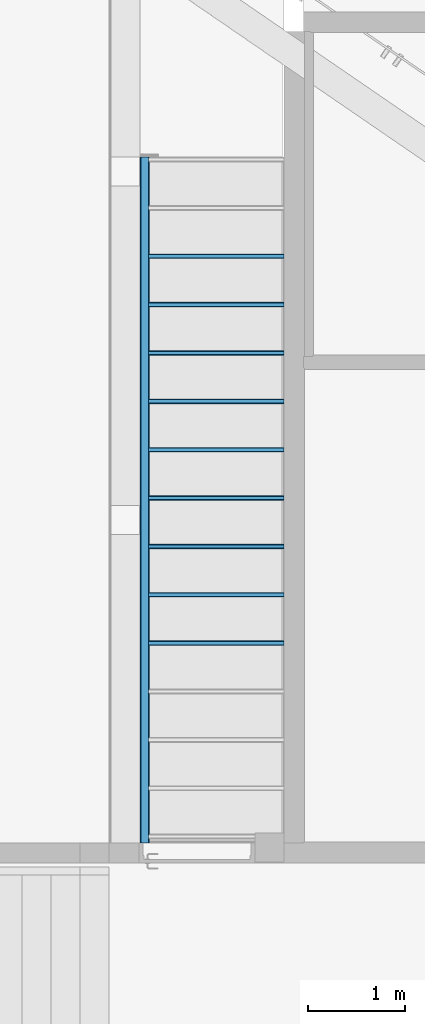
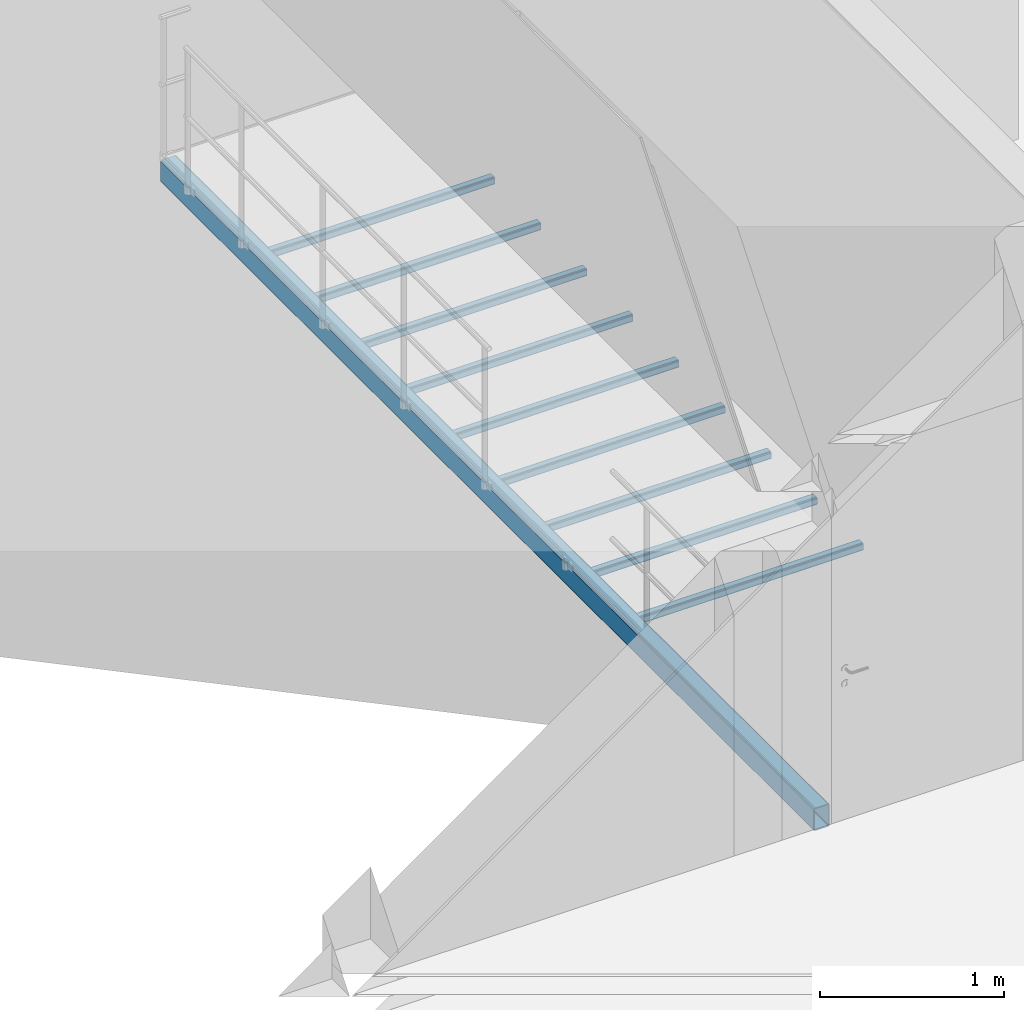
# One storey, part 82 of 246: 10 beams.
"""IFC2X3 building model written with IfcOpenShell, lengths in millimetres."""

from ifc_helpers import new_model, entity, si_unit, converted_unit, derived_unit, money_unit, direction, frame, origin_with_axes, place, context, subcontext, project, spatial, faceted_brep, material, type_object, element, save


model = new_model("IFC2X3")

# Units and contexts
model_context = context("Model", 3, precision=0.01, world=origin_with_axes(), true_north=direction((0.0, 1.0)))
body_context = subcontext(model_context, "Body", "Model", "MODEL_VIEW")
ifc_project = project(units=[si_unit("LENGTHUNIT", "METRE", prefix="MILLI"), si_unit("AREAUNIT", "SQUARE_METRE"), si_unit("VOLUMEUNIT", "CUBIC_METRE"), converted_unit("PLANEANGLEUNIT", "DEGREE", entity("IfcPlaneAngleMeasure", 0.0174532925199), si_unit("PLANEANGLEUNIT", "RADIAN"), dimensions=[0, 0, 0, 0, 0, 0, 0]), si_unit("SOLIDANGLEUNIT", "STERADIAN"), money_unit("EUR"), converted_unit("TIMEUNIT", "Year", entity("IfcTimeMeasure", 31556926.0), si_unit("TIMEUNIT", "SECOND"), dimensions=[0, 0, 1, 0, 0, 0, 0]), si_unit("MASSUNIT", "GRAM", prefix="KILO"), si_unit("THERMODYNAMICTEMPERATUREUNIT", "DEGREE_CELSIUS"), si_unit("LUMINOUSINTENSITYUNIT", "LUMEN"), si_unit("ENERGYUNIT", "JOULE", prefix="MEGA"), derived_unit("THERMALCONDUCTANCEUNIT", [(si_unit("POWERUNIT", "WATT"), 1), (si_unit("LENGTHUNIT", "METRE"), -1), (si_unit("THERMODYNAMICTEMPERATUREUNIT", "KELVIN"), -1)]), derived_unit("SPECIFICHEATCAPACITYUNIT", [(si_unit("ENERGYUNIT", "JOULE"), 1), (si_unit("MASSUNIT", "GRAM", prefix="KILO"), -1), (si_unit("THERMODYNAMICTEMPERATUREUNIT", "KELVIN"), -1)]), derived_unit("MASSDENSITYUNIT", [(si_unit("MASSUNIT", "GRAM", prefix="KILO"), 1), (si_unit("VOLUMEUNIT", "CUBIC_METRE"), -1)])], contexts=[model_context])

# Site, building, storey
site_placement = place(None, origin_with_axes())
site = spatial("IfcSite", under=ifc_project, at=site_placement, Name="L.Koidula tn 11b", CompositionType="ELEMENT")
building_placement = place(site_placement, origin_with_axes())
building = spatial("IfcBuilding", under=site, at=building_placement, Name="Rakvere Riigigümnaasium", CompositionType="ELEMENT")
storey_placement = place(building_placement, origin_with_axes())
storey = spatial("IfcBuildingStorey", under=building, at=storey_placement, Name="1.korrus 0,00", CompositionType="ELEMENT", Elevation=0.0)

# Beams
ifc_material = material(Name="teras_must")
beam_type_1 = type_object("IfcBeamType", Name="SHS50x50x4-AR 50 x 50", PredefinedType="BEAM")
beam_1_placement = place(storey_placement, frame((64460.0209314, 23375.4556024, -54.9862868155), z_axis=(0.0, 0.0, 1.0), x_axis=(0.0, -1.0, 0.0)))
element("IfcBeam", 1, at=beam_1_placement, inside=storey, type_object=beam_type_1, material=ifc_material, Name="TALA", ObjectType="BEAM", context=body_context, shape_type="Brep", body=[
    faceted_brep([(-22.8994949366, 47.0710678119, 22.0710678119), (22.8994949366, 47.0710678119, 22.0710678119), (22.6568542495, 45.6568542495, 22.6568542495), (17.0, 40.0, 25.0), (-17.0, 40.0, 25.0), (-22.6568542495, 45.6568542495, 22.6568542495), (25.0, 50.0, 15.0), (25.0, 49.1715728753, 17.0), (-25.0, 49.1715728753, 17.0), (-25.0, 50.0, 15.0), (-21.0, 50.0, 15.0), (-21.0, 49.1715728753, 17.0), (-19.8284271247, 48.0, 19.8284271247), (-17.0, 47.5147186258, 21.0), (17.0, 47.5147186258, 21.0), (19.8284271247, 48.0, 19.8284271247), (21.0, 49.1715728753, 17.0), (21.0, 50.0, 15.0), (25.0, 1439.97714151, 17.0), (22.6568542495, 1439.97714151, 22.6568542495), (17.0, 1439.97714151, 25.0), (-17.0, 1439.97714151, 25.0), (-22.6568542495, 1439.97714151, 22.6568542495), (-25.0, 1439.97714151, 17.0), (25.0, 50.0, -17.0), (25.0, 1439.97714151, -17.0), (-25.0, 1439.97714151, -17.0), (-25.0, 50.0, -17.0), (17.0, 50.0, -25.0), (22.6568542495, 50.0, -22.6568542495), (21.0, 50.0, -17.0), (19.8284271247, 50.0, -19.8284271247), (17.0, 50.0, -21.0), (-17.0, 50.0, -21.0), (-19.8284271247, 50.0, -19.8284271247), (-21.0, 50.0, -17.0), (-22.6568542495, 50.0, -22.6568542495), (-17.0, 50.0, -25.0), (-21.0, 1439.97714151, 17.0), (-21.0, 1439.97714151, -17.0), (-19.8284271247, 1439.97714151, 19.8284271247), (-17.0, 1439.97714151, 21.0), (17.0, 1439.97714151, 21.0), (19.8284271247, 1439.97714151, 19.8284271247), (21.0, 1439.97714151, 17.0), (21.0, 1439.97714151, -17.0), (22.6568542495, 1439.97714151, -22.6568542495), (17.0, 1439.97714151, -25.0), (-17.0, 1439.97714151, -25.0), (-22.6568542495, 1439.97714151, -22.6568542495), (17.0, 1439.97714151, -21.0), (19.8284271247, 1439.97714151, -19.8284271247), (-19.8284271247, 1439.97714151, -19.8284271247), (-17.0, 1439.97714151, -21.0)], [[[0, 1, 2, 3, 4, 5]], [[6, 7, 1, 0, 8, 9, 10, 11, 12, 13, 14, 15, 16, 17]], [[2, 1, 7, 18, 19]], [[20, 3, 2, 19]], [[21, 4, 3, 20]], [[22, 5, 4, 21]], [[23, 8, 0, 5, 22]], [[6, 24, 25, 18, 7]], [[26, 27, 9, 8, 23]], [[28, 29, 24, 6, 17, 30, 31, 32, 33, 34, 35, 10, 9, 27, 36, 37]], [[38, 11, 10, 35, 39]], [[40, 12, 11, 38]], [[41, 13, 12, 40]], [[42, 14, 13, 41]], [[43, 15, 14, 42]], [[44, 16, 15, 43]], [[45, 30, 17, 16, 44]], [[18, 25, 46, 47, 48, 49, 26, 23, 22, 21, 20, 19], [50, 51, 45, 44, 43, 42, 41, 40, 38, 39, 52, 53]], [[25, 24, 29, 46]], [[49, 36, 27, 26]], [[46, 29, 28, 47]], [[51, 31, 30, 45]], [[50, 32, 31, 51]], [[53, 33, 32, 50]], [[52, 34, 33, 53]], [[39, 35, 34, 52]], [[48, 37, 36, 49]], [[47, 28, 37, 48]]]),
])
beam_2_placement = place(storey_placement, frame((64460.0209314, 21875.4556024, -54.9862868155), z_axis=(0.0, 0.0, 1.0), x_axis=(0.0, -1.0, 0.0)))
element("IfcBeam", 2, at=beam_2_placement, inside=storey, type_object=beam_type_1, material=ifc_material, Name="TALA", ObjectType="BEAM", context=body_context, shape_type="Brep", body=[
    faceted_brep([(-22.8994949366, 47.0710678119, 22.0710678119), (22.8994949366, 47.0710678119, 22.0710678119), (22.6568542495, 45.6568542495, 22.6568542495), (17.0, 40.0, 25.0), (-17.0, 40.0, 25.0), (-22.6568542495, 45.6568542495, 22.6568542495), (25.0, 50.0, 15.0), (25.0, 49.1715728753, 17.0), (-25.0, 49.1715728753, 17.0), (-25.0, 50.0, 15.0), (-21.0, 50.0, 15.0), (-21.0, 49.1715728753, 17.0), (-19.8284271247, 48.0, 19.8284271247), (-17.0, 47.5147186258, 21.0), (17.0, 47.5147186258, 21.0), (19.8284271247, 48.0, 19.8284271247), (21.0, 49.1715728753, 17.0), (21.0, 50.0, 15.0), (25.0, 1439.97714151, 17.0), (22.6568542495, 1439.97714151, 22.6568542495), (17.0, 1439.97714151, 25.0), (-17.0, 1439.97714151, 25.0), (-22.6568542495, 1439.97714151, 22.6568542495), (-25.0, 1439.97714151, 17.0), (25.0, 50.0, -17.0), (25.0, 1439.97714151, -17.0), (-25.0, 1439.97714151, -17.0), (-25.0, 50.0, -17.0), (17.0, 50.0, -25.0), (22.6568542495, 50.0, -22.6568542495), (21.0, 50.0, -17.0), (19.8284271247, 50.0, -19.8284271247), (17.0, 50.0, -21.0), (-17.0, 50.0, -21.0), (-19.8284271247, 50.0, -19.8284271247), (-21.0, 50.0, -17.0), (-22.6568542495, 50.0, -22.6568542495), (-17.0, 50.0, -25.0), (-21.0, 1439.97714151, 17.0), (-21.0, 1439.97714151, -17.0), (-19.8284271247, 1439.97714151, 19.8284271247), (-17.0, 1439.97714151, 21.0), (17.0, 1439.97714151, 21.0), (19.8284271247, 1439.97714151, 19.8284271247), (21.0, 1439.97714151, 17.0), (21.0, 1439.97714151, -17.0), (22.6568542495, 1439.97714151, -22.6568542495), (17.0, 1439.97714151, -25.0), (-17.0, 1439.97714151, -25.0), (-22.6568542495, 1439.97714151, -22.6568542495), (17.0, 1439.97714151, -21.0), (19.8284271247, 1439.97714151, -19.8284271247), (-19.8284271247, 1439.97714151, -19.8284271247), (-17.0, 1439.97714151, -21.0)], [[[0, 1, 2, 3, 4, 5]], [[6, 7, 1, 0, 8, 9, 10, 11, 12, 13, 14, 15, 16, 17]], [[2, 1, 7, 18, 19]], [[20, 3, 2, 19]], [[21, 4, 3, 20]], [[22, 5, 4, 21]], [[23, 8, 0, 5, 22]], [[6, 24, 25, 18, 7]], [[26, 27, 9, 8, 23]], [[28, 29, 24, 6, 17, 30, 31, 32, 33, 34, 35, 10, 9, 27, 36, 37]], [[38, 11, 10, 35, 39]], [[40, 12, 11, 38]], [[41, 13, 12, 40]], [[42, 14, 13, 41]], [[43, 15, 14, 42]], [[44, 16, 15, 43]], [[30, 17, 16, 44, 45]], [[18, 25, 46, 47, 48, 49, 26, 23, 22, 21, 20, 19], [50, 51, 45, 44, 43, 42, 41, 40, 38, 39, 52, 53]], [[25, 24, 29, 46]], [[49, 36, 27, 26]], [[46, 29, 28, 47]], [[51, 31, 30, 45]], [[50, 32, 31, 51]], [[53, 33, 32, 50]], [[52, 34, 33, 53]], [[39, 35, 34, 52]], [[48, 37, 36, 49]], [[47, 28, 37, 48]]]),
])
beam_3_placement = place(storey_placement, frame((64460.0209314, 22375.4556024, -54.9862868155), z_axis=(0.0, 0.0, 1.0), x_axis=(0.0, -1.0, 0.0)))
element("IfcBeam", 3, at=beam_3_placement, inside=storey, type_object=beam_type_1, material=ifc_material, Name="TALA", ObjectType="BEAM", context=body_context, shape_type="Brep", body=[
    faceted_brep([(-22.8994949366, 47.0710678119, 22.0710678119), (22.8994949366, 47.0710678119, 22.0710678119), (22.6568542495, 45.6568542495, 22.6568542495), (17.0, 40.0, 25.0), (-17.0, 40.0, 25.0), (-22.6568542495, 45.6568542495, 22.6568542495), (25.0, 50.0, 15.0), (25.0, 49.1715728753, 17.0), (-25.0, 49.1715728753, 17.0), (-25.0, 50.0, 15.0), (-21.0, 50.0, 15.0), (-21.0, 49.1715728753, 17.0), (-19.8284271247, 48.0, 19.8284271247), (-17.0, 47.5147186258, 21.0), (17.0, 47.5147186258, 21.0), (19.8284271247, 48.0, 19.8284271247), (21.0, 49.1715728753, 17.0), (21.0, 50.0, 15.0), (25.0, 1439.97714151, 17.0), (22.6568542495, 1439.97714151, 22.6568542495), (17.0, 1439.97714151, 25.0), (-17.0, 1439.97714151, 25.0), (-22.6568542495, 1439.97714151, 22.6568542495), (-25.0, 1439.97714151, 17.0), (25.0, 50.0, -17.0), (25.0, 1439.97714151, -17.0), (-25.0, 1439.97714151, -17.0), (-25.0, 50.0, -17.0), (17.0, 50.0, -25.0), (22.6568542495, 50.0, -22.6568542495), (21.0, 50.0, -17.0), (19.8284271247, 50.0, -19.8284271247), (17.0, 50.0, -21.0), (-17.0, 50.0, -21.0), (-19.8284271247, 50.0, -19.8284271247), (-21.0, 50.0, -17.0), (-22.6568542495, 50.0, -22.6568542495), (-17.0, 50.0, -25.0), (-21.0, 1439.97714151, 17.0), (-21.0, 1439.97714151, -17.0), (-19.8284271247, 1439.97714151, 19.8284271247), (-17.0, 1439.97714151, 21.0), (17.0, 1439.97714151, 21.0), (19.8284271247, 1439.97714151, 19.8284271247), (21.0, 1439.97714151, 17.0), (21.0, 1439.97714151, -17.0), (22.6568542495, 1439.97714151, -22.6568542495), (17.0, 1439.97714151, -25.0), (-17.0, 1439.97714151, -25.0), (-22.6568542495, 1439.97714151, -22.6568542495), (17.0, 1439.97714151, -21.0), (19.8284271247, 1439.97714151, -19.8284271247), (-19.8284271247, 1439.97714151, -19.8284271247), (-17.0, 1439.97714151, -21.0)], [[[0, 1, 2, 3, 4, 5]], [[6, 7, 1, 0, 8, 9, 10, 11, 12, 13, 14, 15, 16, 17]], [[2, 1, 7, 18, 19]], [[20, 3, 2, 19]], [[21, 4, 3, 20]], [[22, 5, 4, 21]], [[23, 8, 0, 5, 22]], [[6, 24, 25, 18, 7]], [[26, 27, 9, 8, 23]], [[28, 29, 24, 6, 17, 30, 31, 32, 33, 34, 35, 10, 9, 27, 36, 37]], [[38, 11, 10, 35, 39]], [[40, 12, 11, 38]], [[41, 13, 12, 40]], [[42, 14, 13, 41]], [[43, 15, 14, 42]], [[44, 16, 15, 43]], [[30, 17, 16, 44, 45]], [[18, 25, 46, 47, 48, 49, 26, 23, 22, 21, 20, 19], [50, 51, 45, 44, 43, 42, 41, 40, 38, 39, 52, 53]], [[25, 24, 29, 46]], [[49, 36, 27, 26]], [[46, 29, 28, 47]], [[51, 31, 30, 45]], [[50, 32, 31, 51]], [[53, 33, 32, 50]], [[52, 34, 33, 53]], [[39, 35, 34, 52]], [[48, 37, 36, 49]], [[47, 28, 37, 48]]]),
])
beam_4_placement = place(storey_placement, frame((64460.0209314, 22875.4556024, -54.9862868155), z_axis=(0.0, 0.0, 1.0), x_axis=(0.0, -1.0, 0.0)))
element("IfcBeam", 4, at=beam_4_placement, inside=storey, type_object=beam_type_1, material=ifc_material, Name="TALA", ObjectType="BEAM", context=body_context, shape_type="Brep", body=[
    faceted_brep([(-22.8994949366, 47.0710678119, 22.0710678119), (22.8994949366, 47.0710678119, 22.0710678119), (22.6568542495, 45.6568542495, 22.6568542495), (17.0, 40.0, 25.0), (-17.0, 40.0, 25.0), (-22.6568542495, 45.6568542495, 22.6568542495), (25.0, 50.0, 15.0), (25.0, 49.1715728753, 17.0), (-25.0, 49.1715728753, 17.0), (-25.0, 50.0, 15.0), (-21.0, 50.0, 15.0), (-21.0, 49.1715728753, 17.0), (-19.8284271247, 48.0, 19.8284271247), (-17.0, 47.5147186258, 21.0), (17.0, 47.5147186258, 21.0), (19.8284271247, 48.0, 19.8284271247), (21.0, 49.1715728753, 17.0), (21.0, 50.0, 15.0), (25.0, 1439.97714151, 17.0), (22.6568542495, 1439.97714151, 22.6568542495), (17.0, 1439.97714151, 25.0), (-17.0, 1439.97714151, 25.0), (-22.6568542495, 1439.97714151, 22.6568542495), (-25.0, 1439.97714151, 17.0), (25.0, 50.0, -17.0), (25.0, 1439.97714151, -17.0), (-25.0, 1439.97714151, -17.0), (-25.0, 50.0, -17.0), (17.0, 50.0, -25.0), (22.6568542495, 50.0, -22.6568542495), (21.0, 50.0, -17.0), (19.8284271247, 50.0, -19.8284271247), (17.0, 50.0, -21.0), (-17.0, 50.0, -21.0), (-19.8284271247, 50.0, -19.8284271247), (-21.0, 50.0, -17.0), (-22.6568542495, 50.0, -22.6568542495), (-17.0, 50.0, -25.0), (-21.0, 1439.97714151, 17.0), (-21.0, 1439.97714151, -17.0), (-19.8284271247, 1439.97714151, 19.8284271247), (-17.0, 1439.97714151, 21.0), (17.0, 1439.97714151, 21.0), (19.8284271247, 1439.97714151, 19.8284271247), (21.0, 1439.97714151, 17.0), (21.0, 1439.97714151, -17.0), (22.6568542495, 1439.97714151, -22.6568542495), (17.0, 1439.97714151, -25.0), (-17.0, 1439.97714151, -25.0), (-22.6568542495, 1439.97714151, -22.6568542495), (17.0, 1439.97714151, -21.0), (19.8284271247, 1439.97714151, -19.8284271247), (-19.8284271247, 1439.97714151, -19.8284271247), (-17.0, 1439.97714151, -21.0)], [[[0, 1, 2, 3, 4, 5]], [[6, 7, 1, 0, 8, 9, 10, 11, 12, 13, 14, 15, 16, 17]], [[2, 1, 7, 18, 19]], [[20, 3, 2, 19]], [[21, 4, 3, 20]], [[22, 5, 4, 21]], [[23, 8, 0, 5, 22]], [[6, 24, 25, 18, 7]], [[26, 27, 9, 8, 23]], [[28, 29, 24, 6, 17, 30, 31, 32, 33, 34, 35, 10, 9, 27, 36, 37]], [[38, 11, 10, 35, 39]], [[40, 12, 11, 38]], [[41, 13, 12, 40]], [[42, 14, 13, 41]], [[43, 15, 14, 42]], [[44, 16, 15, 43]], [[45, 30, 17, 16, 44]], [[18, 25, 46, 47, 48, 49, 26, 23, 22, 21, 20, 19], [50, 51, 45, 44, 43, 42, 41, 40, 38, 39, 52, 53]], [[25, 24, 29, 46]], [[49, 36, 27, 26]], [[46, 29, 28, 47]], [[51, 31, 30, 45]], [[50, 32, 31, 51]], [[53, 33, 32, 50]], [[52, 34, 33, 53]], [[39, 35, 34, 52]], [[48, 37, 36, 49]], [[47, 28, 37, 48]]]),
])
beam_5_placement = place(storey_placement, frame((64460.0209314, 21375.4556024, -54.9862868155), z_axis=(0.0, 0.0, 1.0), x_axis=(0.0, -1.0, 0.0)))
element("IfcBeam", 5, at=beam_5_placement, inside=storey, type_object=beam_type_1, material=ifc_material, Name="TALA", ObjectType="BEAM", context=body_context, shape_type="Brep", body=[
    faceted_brep([(-22.8994949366, 47.0710678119, 22.0710678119), (22.8994949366, 47.0710678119, 22.0710678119), (22.6568542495, 45.6568542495, 22.6568542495), (17.0, 40.0, 25.0), (-17.0, 40.0, 25.0), (-22.6568542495, 45.6568542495, 22.6568542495), (25.0, 50.0, 15.0), (25.0, 49.1715728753, 17.0), (-25.0, 49.1715728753, 17.0), (-25.0, 50.0, 15.0), (-21.0, 50.0, 15.0), (-21.0, 49.1715728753, 17.0), (-19.8284271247, 48.0, 19.8284271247), (-17.0, 47.5147186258, 21.0), (17.0, 47.5147186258, 21.0), (19.8284271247, 48.0, 19.8284271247), (21.0, 49.1715728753, 17.0), (21.0, 50.0, 15.0), (25.0, 1439.97714151, 17.0), (22.6568542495, 1439.97714151, 22.6568542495), (17.0, 1439.97714151, 25.0), (-17.0, 1439.97714151, 25.0), (-22.6568542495, 1439.97714151, 22.6568542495), (-25.0, 1439.97714151, 17.0), (25.0, 50.0, -17.0), (25.0, 1439.97714151, -17.0), (-25.0, 1439.97714151, -17.0), (-25.0, 50.0, -17.0), (17.0, 50.0, -25.0), (22.6568542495, 50.0, -22.6568542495), (21.0, 50.0, -17.0), (19.8284271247, 50.0, -19.8284271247), (17.0, 50.0, -21.0), (-17.0, 50.0, -21.0), (-19.8284271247, 50.0, -19.8284271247), (-21.0, 50.0, -17.0), (-22.6568542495, 50.0, -22.6568542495), (-17.0, 50.0, -25.0), (-21.0, 1439.97714151, 17.0), (-21.0, 1439.97714151, -17.0), (-19.8284271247, 1439.97714151, 19.8284271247), (-17.0, 1439.97714151, 21.0), (17.0, 1439.97714151, 21.0), (19.8284271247, 1439.97714151, 19.8284271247), (21.0, 1439.97714151, 17.0), (21.0, 1439.97714151, -17.0), (22.6568542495, 1439.97714151, -22.6568542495), (17.0, 1439.97714151, -25.0), (-17.0, 1439.97714151, -25.0), (-22.6568542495, 1439.97714151, -22.6568542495), (17.0, 1439.97714151, -21.0), (19.8284271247, 1439.97714151, -19.8284271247), (-19.8284271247, 1439.97714151, -19.8284271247), (-17.0, 1439.97714151, -21.0)], [[[0, 1, 2, 3, 4, 5]], [[6, 7, 1, 0, 8, 9, 10, 11, 12, 13, 14, 15, 16, 17]], [[2, 1, 7, 18, 19]], [[20, 3, 2, 19]], [[21, 4, 3, 20]], [[22, 5, 4, 21]], [[23, 8, 0, 5, 22]], [[6, 24, 25, 18, 7]], [[26, 27, 9, 8, 23]], [[28, 29, 24, 6, 17, 30, 31, 32, 33, 34, 35, 10, 9, 27, 36, 37]], [[38, 11, 10, 35, 39]], [[40, 12, 11, 38]], [[41, 13, 12, 40]], [[42, 14, 13, 41]], [[43, 15, 14, 42]], [[44, 16, 15, 43]], [[45, 30, 17, 16, 44]], [[18, 25, 46, 47, 48, 49, 26, 23, 22, 21, 20, 19], [50, 51, 45, 44, 43, 42, 41, 40, 38, 39, 52, 53]], [[25, 24, 29, 46]], [[49, 36, 27, 26]], [[46, 29, 28, 47]], [[51, 31, 30, 45]], [[50, 32, 31, 51]], [[53, 33, 32, 50]], [[52, 34, 33, 53]], [[39, 35, 34, 52]], [[48, 37, 36, 49]], [[47, 28, 37, 48]]]),
])
beam_6_placement = place(storey_placement, frame((64460.0209314, 19375.4556024, -54.9862868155), z_axis=(0.0, 0.0, 1.0), x_axis=(0.0, -1.0, 0.0)))
element("IfcBeam", 6, at=beam_6_placement, inside=storey, type_object=beam_type_1, material=ifc_material, Name="TALA", ObjectType="BEAM", context=body_context, shape_type="Brep", body=[
    faceted_brep([(-22.8994949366, 47.0710678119, 22.0710678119), (22.8994949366, 47.0710678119, 22.0710678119), (22.6568542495, 45.6568542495, 22.6568542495), (17.0, 40.0, 25.0), (-17.0, 40.0, 25.0), (-22.6568542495, 45.6568542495, 22.6568542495), (25.0, 50.0, 15.0), (25.0, 49.1715728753, 17.0), (-25.0, 49.1715728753, 17.0), (-25.0, 50.0, 15.0), (-21.0, 50.0, 15.0), (-21.0, 49.1715728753, 17.0), (-19.8284271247, 48.0, 19.8284271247), (-17.0, 47.5147186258, 21.0), (17.0, 47.5147186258, 21.0), (19.8284271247, 48.0, 19.8284271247), (21.0, 49.1715728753, 17.0), (21.0, 50.0, 15.0), (25.0, 1439.97714151, 17.0), (22.6568542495, 1439.97714151, 22.6568542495), (17.0, 1439.97714151, 25.0), (-17.0, 1439.97714151, 25.0), (-22.6568542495, 1439.97714151, 22.6568542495), (-25.0, 1439.97714151, 17.0), (25.0, 50.0, -17.0), (25.0, 1439.97714151, -17.0), (-25.0, 50.0, -17.0), (-25.0, 1439.97714151, -17.0), (17.0, 50.0, -25.0), (22.6568542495, 50.0, -22.6568542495), (21.0, 50.0, -17.0), (19.8284271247, 50.0, -19.8284271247), (17.0, 50.0, -21.0), (-17.0, 50.0, -21.0), (-19.8284271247, 50.0, -19.8284271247), (-21.0, 50.0, -17.0), (-22.6568542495, 50.0, -22.6568542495), (-17.0, 50.0, -25.0), (-21.0, 1439.97714151, -17.0), (-21.0, 1439.97714151, 17.0), (-19.8284271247, 1439.97714151, 19.8284271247), (-17.0, 1439.97714151, 21.0), (17.0, 1439.97714151, 21.0), (19.8284271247, 1439.97714151, 19.8284271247), (21.0, 1439.97714151, 17.0), (21.0, 1439.97714151, -17.0), (22.6568542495, 1439.97714151, -22.6568542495), (17.0, 1439.97714151, -25.0), (-17.0, 1439.97714151, -25.0), (-22.6568542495, 1439.97714151, -22.6568542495), (17.0, 1439.97714151, -21.0), (19.8284271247, 1439.97714151, -19.8284271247), (-19.8284271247, 1439.97714151, -19.8284271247), (-17.0, 1439.97714151, -21.0)], [[[0, 1, 2, 3, 4, 5]], [[6, 7, 1, 0, 8, 9, 10, 11, 12, 13, 14, 15, 16, 17]], [[2, 1, 7, 18, 19]], [[20, 3, 2, 19]], [[21, 4, 3, 20]], [[22, 5, 4, 21]], [[23, 8, 0, 5, 22]], [[18, 7, 6, 24, 25]], [[26, 9, 8, 23, 27]], [[28, 29, 24, 6, 17, 30, 31, 32, 33, 34, 35, 10, 9, 26, 36, 37]], [[11, 10, 35, 38, 39]], [[40, 12, 11, 39]], [[41, 13, 12, 40]], [[42, 14, 13, 41]], [[43, 15, 14, 42]], [[44, 16, 15, 43]], [[30, 17, 16, 44, 45]], [[18, 25, 46, 47, 48, 49, 27, 23, 22, 21, 20, 19], [50, 51, 45, 44, 43, 42, 41, 40, 39, 38, 52, 53]], [[25, 24, 29, 46]], [[49, 36, 26, 27]], [[46, 29, 28, 47]], [[51, 31, 30, 45]], [[50, 32, 31, 51]], [[53, 33, 32, 50]], [[52, 34, 33, 53]], [[38, 35, 34, 52]], [[49, 48, 37, 36]], [[47, 28, 37, 48]]]),
])
beam_7_placement = place(storey_placement, frame((64460.0209314, 19875.4556024, -54.9862868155), z_axis=(0.0, 0.0, 1.0), x_axis=(0.0, -1.0, 0.0)))
element("IfcBeam", 7, at=beam_7_placement, inside=storey, type_object=beam_type_1, material=ifc_material, Name="TALA", ObjectType="BEAM", context=body_context, shape_type="Brep", body=[
    faceted_brep([(-22.8994949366, 47.0710678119, 22.0710678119), (22.8994949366, 47.0710678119, 22.0710678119), (22.6568542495, 45.6568542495, 22.6568542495), (17.0, 40.0, 25.0), (-17.0, 40.0, 25.0), (-22.6568542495, 45.6568542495, 22.6568542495), (25.0, 50.0, 15.0), (25.0, 49.1715728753, 17.0), (-25.0, 49.1715728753, 17.0), (-25.0, 50.0, 15.0), (-21.0, 50.0, 15.0), (-21.0, 49.1715728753, 17.0), (-19.8284271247, 48.0, 19.8284271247), (-17.0, 47.5147186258, 21.0), (17.0, 47.5147186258, 21.0), (19.8284271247, 48.0, 19.8284271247), (21.0, 49.1715728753, 17.0), (21.0, 50.0, 15.0), (25.0, 1439.97714151, 17.0), (22.6568542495, 1439.97714151, 22.6568542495), (17.0, 1439.97714151, 25.0), (-17.0, 1439.97714151, 25.0), (-22.6568542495, 1439.97714151, 22.6568542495), (-25.0, 1439.97714151, 17.0), (25.0, 50.0, -17.0), (25.0, 1439.97714151, -17.0), (-25.0, 1439.97714151, -17.0), (-25.0, 50.0, -17.0), (17.0, 50.0, -25.0), (22.6568542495, 50.0, -22.6568542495), (21.0, 50.0, -17.0), (19.8284271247, 50.0, -19.8284271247), (17.0, 50.0, -21.0), (-17.0, 50.0, -21.0), (-19.8284271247, 50.0, -19.8284271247), (-21.0, 50.0, -17.0), (-22.6568542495, 50.0, -22.6568542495), (-17.0, 50.0, -25.0), (-21.0, 1439.97714151, 17.0), (-21.0, 1439.97714151, -17.0), (-19.8284271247, 1439.97714151, 19.8284271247), (-17.0, 1439.97714151, 21.0), (17.0, 1439.97714151, 21.0), (19.8284271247, 1439.97714151, 19.8284271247), (21.0, 1439.97714151, 17.0), (21.0, 1439.97714151, -17.0), (22.6568542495, 1439.97714151, -22.6568542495), (17.0, 1439.97714151, -25.0), (-17.0, 1439.97714151, -25.0), (-22.6568542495, 1439.97714151, -22.6568542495), (17.0, 1439.97714151, -21.0), (19.8284271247, 1439.97714151, -19.8284271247), (-19.8284271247, 1439.97714151, -19.8284271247), (-17.0, 1439.97714151, -21.0)], [[[0, 1, 2, 3, 4, 5]], [[6, 7, 1, 0, 8, 9, 10, 11, 12, 13, 14, 15, 16, 17]], [[2, 1, 7, 18, 19]], [[20, 3, 2, 19]], [[21, 4, 3, 20]], [[22, 5, 4, 21]], [[23, 8, 0, 5, 22]], [[6, 24, 25, 18, 7]], [[26, 27, 9, 8, 23]], [[28, 29, 24, 6, 17, 30, 31, 32, 33, 34, 35, 10, 9, 27, 36, 37]], [[38, 11, 10, 35, 39]], [[40, 12, 11, 38]], [[41, 13, 12, 40]], [[42, 14, 13, 41]], [[43, 15, 14, 42]], [[44, 16, 15, 43]], [[30, 17, 16, 44, 45]], [[18, 25, 46, 47, 48, 49, 26, 23, 22, 21, 20, 19], [50, 51, 45, 44, 43, 42, 41, 40, 38, 39, 52, 53]], [[25, 24, 29, 46]], [[49, 36, 27, 26]], [[47, 46, 29, 28]], [[51, 31, 30, 45]], [[50, 32, 31, 51]], [[53, 33, 32, 50]], [[52, 34, 33, 53]], [[39, 35, 34, 52]], [[48, 37, 36, 49]], [[47, 28, 37, 48]]]),
])
beam_8_placement = place(storey_placement, frame((64460.0209314, 20375.4556024, -54.9862868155), z_axis=(0.0, 0.0, 1.0), x_axis=(0.0, -1.0, 0.0)))
element("IfcBeam", 8, at=beam_8_placement, inside=storey, type_object=beam_type_1, material=ifc_material, Name="TALA", ObjectType="BEAM", context=body_context, shape_type="Brep", body=[
    faceted_brep([(-22.8994949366, 47.0710678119, 22.0710678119), (22.8994949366, 47.0710678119, 22.0710678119), (22.6568542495, 45.6568542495, 22.6568542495), (17.0, 40.0, 25.0), (-17.0, 40.0, 25.0), (-22.6568542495, 45.6568542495, 22.6568542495), (25.0, 50.0, 15.0), (25.0, 49.1715728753, 17.0), (-25.0, 49.1715728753, 17.0), (-25.0, 50.0, 15.0), (-21.0, 50.0, 15.0), (-21.0, 49.1715728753, 17.0), (-19.8284271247, 48.0, 19.8284271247), (-17.0, 47.5147186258, 21.0), (17.0, 47.5147186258, 21.0), (19.8284271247, 48.0, 19.8284271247), (21.0, 49.1715728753, 17.0), (21.0, 50.0, 15.0), (25.0, 1439.97714151, 17.0), (22.6568542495, 1439.97714151, 22.6568542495), (17.0, 1439.97714151, 25.0), (-17.0, 1439.97714151, 25.0), (-22.6568542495, 1439.97714151, 22.6568542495), (-25.0, 1439.97714151, 17.0), (25.0, 50.0, -17.0), (25.0, 1439.97714151, -17.0), (-25.0, 1439.97714151, -17.0), (-25.0, 50.0, -17.0), (17.0, 50.0, -25.0), (22.6568542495, 50.0, -22.6568542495), (21.0, 50.0, -17.0), (19.8284271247, 50.0, -19.8284271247), (17.0, 50.0, -21.0), (-17.0, 50.0, -21.0), (-19.8284271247, 50.0, -19.8284271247), (-21.0, 50.0, -17.0), (-22.6568542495, 50.0, -22.6568542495), (-17.0, 50.0, -25.0), (-21.0, 1439.97714151, 17.0), (-21.0, 1439.97714151, -17.0), (-19.8284271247, 1439.97714151, 19.8284271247), (-17.0, 1439.97714151, 21.0), (17.0, 1439.97714151, 21.0), (19.8284271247, 1439.97714151, 19.8284271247), (21.0, 1439.97714151, 17.0), (21.0, 1439.97714151, -17.0), (22.6568542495, 1439.97714151, -22.6568542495), (17.0, 1439.97714151, -25.0), (-17.0, 1439.97714151, -25.0), (-22.6568542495, 1439.97714151, -22.6568542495), (17.0, 1439.97714151, -21.0), (19.8284271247, 1439.97714151, -19.8284271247), (-19.8284271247, 1439.97714151, -19.8284271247), (-17.0, 1439.97714151, -21.0)], [[[0, 1, 2, 3, 4, 5]], [[6, 7, 1, 0, 8, 9, 10, 11, 12, 13, 14, 15, 16, 17]], [[2, 1, 7, 18, 19]], [[20, 3, 2, 19]], [[21, 4, 3, 20]], [[22, 5, 4, 21]], [[23, 8, 0, 5, 22]], [[6, 24, 25, 18, 7]], [[26, 27, 9, 8, 23]], [[28, 29, 24, 6, 17, 30, 31, 32, 33, 34, 35, 10, 9, 27, 36, 37]], [[38, 11, 10, 35, 39]], [[40, 12, 11, 38]], [[41, 13, 12, 40]], [[42, 14, 13, 41]], [[43, 15, 14, 42]], [[44, 16, 15, 43]], [[45, 30, 17, 16, 44]], [[18, 25, 46, 47, 48, 49, 26, 23, 22, 21, 20, 19], [50, 51, 45, 44, 43, 42, 41, 40, 38, 39, 52, 53]], [[25, 24, 29, 46]], [[49, 36, 27, 26]], [[46, 29, 28, 47]], [[51, 31, 30, 45]], [[50, 32, 31, 51]], [[53, 33, 32, 50]], [[52, 34, 33, 53]], [[39, 35, 34, 52]], [[48, 37, 36, 49]], [[47, 28, 37, 48]]]),
])
beam_9_placement = place(storey_placement, frame((64460.0209314, 20875.4556024, -54.9862868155), z_axis=(0.0, 0.0, 1.0), x_axis=(0.0, -1.0, 0.0)))
element("IfcBeam", 9, at=beam_9_placement, inside=storey, type_object=beam_type_1, material=ifc_material, Name="TALA", ObjectType="BEAM", context=body_context, shape_type="Brep", body=[
    faceted_brep([(-22.8994949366, 47.0710678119, 22.0710678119), (22.8994949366, 47.0710678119, 22.0710678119), (22.6568542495, 45.6568542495, 22.6568542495), (17.0, 40.0, 25.0), (-17.0, 40.0, 25.0), (-22.6568542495, 45.6568542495, 22.6568542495), (25.0, 50.0, 15.0), (25.0, 49.1715728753, 17.0), (-25.0, 49.1715728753, 17.0), (-25.0, 50.0, 15.0), (-21.0, 50.0, 15.0), (-21.0, 49.1715728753, 17.0), (-19.8284271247, 48.0, 19.8284271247), (-17.0, 47.5147186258, 21.0), (17.0, 47.5147186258, 21.0), (19.8284271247, 48.0, 19.8284271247), (21.0, 49.1715728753, 17.0), (21.0, 50.0, 15.0), (25.0, 1439.97714151, 17.0), (22.6568542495, 1439.97714151, 22.6568542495), (17.0, 1439.97714151, 25.0), (-17.0, 1439.97714151, 25.0), (-22.6568542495, 1439.97714151, 22.6568542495), (-25.0, 1439.97714151, 17.0), (25.0, 50.0, -17.0), (25.0, 1439.97714151, -17.0), (-25.0, 1439.97714151, -17.0), (-25.0, 50.0, -17.0), (17.0, 50.0, -25.0), (22.6568542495, 50.0, -22.6568542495), (21.0, 50.0, -17.0), (19.8284271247, 50.0, -19.8284271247), (17.0, 50.0, -21.0), (-17.0, 50.0, -21.0), (-19.8284271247, 50.0, -19.8284271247), (-21.0, 50.0, -17.0), (-22.6568542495, 50.0, -22.6568542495), (-17.0, 50.0, -25.0), (-21.0, 1439.97714151, 17.0), (-21.0, 1439.97714151, -17.0), (-19.8284271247, 1439.97714151, 19.8284271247), (-17.0, 1439.97714151, 21.0), (17.0, 1439.97714151, 21.0), (19.8284271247, 1439.97714151, 19.8284271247), (21.0, 1439.97714151, 17.0), (21.0, 1439.97714151, -17.0), (22.6568542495, 1439.97714151, -22.6568542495), (17.0, 1439.97714151, -25.0), (-17.0, 1439.97714151, -25.0), (-22.6568542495, 1439.97714151, -22.6568542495), (17.0, 1439.97714151, -21.0), (19.8284271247, 1439.97714151, -19.8284271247), (-19.8284271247, 1439.97714151, -19.8284271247), (-17.0, 1439.97714151, -21.0)], [[[0, 1, 2, 3, 4, 5]], [[6, 7, 1, 0, 8, 9, 10, 11, 12, 13, 14, 15, 16, 17]], [[2, 1, 7, 18, 19]], [[20, 3, 2, 19]], [[21, 4, 3, 20]], [[22, 5, 4, 21]], [[23, 8, 0, 5, 22]], [[6, 24, 25, 18, 7]], [[26, 27, 9, 8, 23]], [[28, 29, 24, 6, 17, 30, 31, 32, 33, 34, 35, 10, 9, 27, 36, 37]], [[38, 11, 10, 35, 39]], [[40, 12, 11, 38]], [[41, 13, 12, 40]], [[42, 14, 13, 41]], [[43, 15, 14, 42]], [[44, 16, 15, 43]], [[45, 30, 17, 16, 44]], [[18, 25, 46, 47, 48, 49, 26, 23, 22, 21, 20, 19], [50, 51, 45, 44, 43, 42, 41, 40, 38, 39, 52, 53]], [[25, 24, 29, 46]], [[49, 36, 27, 26]], [[46, 29, 28, 47]], [[51, 31, 30, 45]], [[50, 32, 31, 51]], [[53, 33, 32, 50]], [[52, 34, 33, 53]], [[39, 35, 34, 52]], [[48, 37, 36, 49]], [[47, 28, 37, 48]]]),
])
beam_type_2 = type_object("IfcBeamType", Name="RHS150x100x5-AR 100 x 150", PredefinedType="BEAM")
beam_10_placement = place(storey_placement, frame((64460.0209314, 17310.4555225, -104.986286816), z_axis=(0.0, 0.0, 1.0), x_axis=(1.0, 0.0, 0.0)))
element("IfcBeam", 10, at=beam_10_placement, inside=storey, type_object=beam_type_2, material=ifc_material, Name="TALA", ObjectType="BEAM", context=body_context, shape_type="Brep", body=[
    faceted_brep([(-50.0, 0.0, -65.0), (-50.0, 7090.00002468, -65.0), (-47.0710678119, 7090.00002468, -72.0710678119), (-47.0710678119, 0.0, -72.0710678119), (-50.0, 0.0, 65.0), (-50.0, 7090.00002468, 65.0), (-47.0710678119, 7090.00002468, 72.0710678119), (-40.0, 7090.00002468, 75.0), (40.0, 7090.00002468, 75.0), (47.0710678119, 7090.00002468, 72.0710678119), (50.0, 7090.00002468, 65.0), (50.0, 7090.00002468, -65.0), (47.0710678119, 7090.00002468, -72.0710678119), (40.0, 7090.00002468, -75.0), (-40.0, 7090.00002468, -75.0), (-40.0, 7090.00002468, -70.0), (40.0, 7090.00002468, -70.0), (43.5355339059, 7090.00002468, -68.5355339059), (45.0, 7090.00002468, -65.0), (45.0, 7090.00002468, 65.0), (43.5355339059, 7090.00002468, 68.5355339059), (40.0, 7090.00002468, 70.0), (-40.0, 7090.00002468, 70.0), (-43.5355339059, 7090.00002468, 68.5355339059), (-45.0, 7090.00002468, 65.0), (-45.0, 7090.00002468, -65.0), (-43.5355339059, 7090.00002468, -68.5355339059), (-40.0, 0.0, -75.0), (40.0, 0.0, -75.0), (47.0710678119, 0.0, -72.0710678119), (50.0, 0.0, -65.0), (50.0, 0.0, 65.0), (47.0710678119, 0.0, 72.0710678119), (40.0, 0.0, 75.0), (-40.0, 0.0, 75.0), (-47.0710678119, 0.0, 72.0710678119), (43.5355339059, 0.0, -68.5355339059), (40.0, 0.0, -70.0), (-40.0, 0.0, -70.0), (-43.5355339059, 0.0, -68.5355339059), (-45.0, 0.0, -65.0), (-45.0, 0.0, 65.0), (-43.5355339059, 0.0, 68.5355339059), (-40.0, 0.0, 70.0), (40.0, 0.0, 70.0), (43.5355339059, 0.0, 68.5355339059), (45.0, 0.0, 65.0), (45.0, 0.0, -65.0)], [[[0, 1, 2, 3]], [[4, 5, 1, 0]], [[2, 1, 5, 6, 7, 8, 9, 10, 11, 12, 13, 14], [15, 16, 17, 18, 19, 20, 21, 22, 23, 24, 25, 26]], [[3, 2, 14, 27]], [[4, 0, 3, 27, 28, 29, 30, 31, 32, 33, 34, 35], [36, 37, 38, 39, 40, 41, 42, 43, 44, 45, 46, 47]], [[35, 6, 5, 4]], [[34, 7, 6, 35]], [[33, 8, 7, 34]], [[32, 9, 8, 33]], [[31, 10, 9, 32]], [[30, 11, 10, 31]], [[29, 12, 11, 30]], [[28, 13, 12, 29]], [[27, 14, 13, 28]], [[37, 16, 15, 38]], [[36, 17, 16, 37]], [[47, 18, 17, 36]], [[46, 19, 18, 47]], [[45, 20, 19, 46]], [[44, 21, 20, 45]], [[43, 22, 21, 44]], [[42, 23, 22, 43]], [[41, 24, 23, 42]], [[40, 25, 24, 41]], [[39, 26, 25, 40]], [[38, 15, 26, 39]]]),
])

save(model, "model.ifc")
